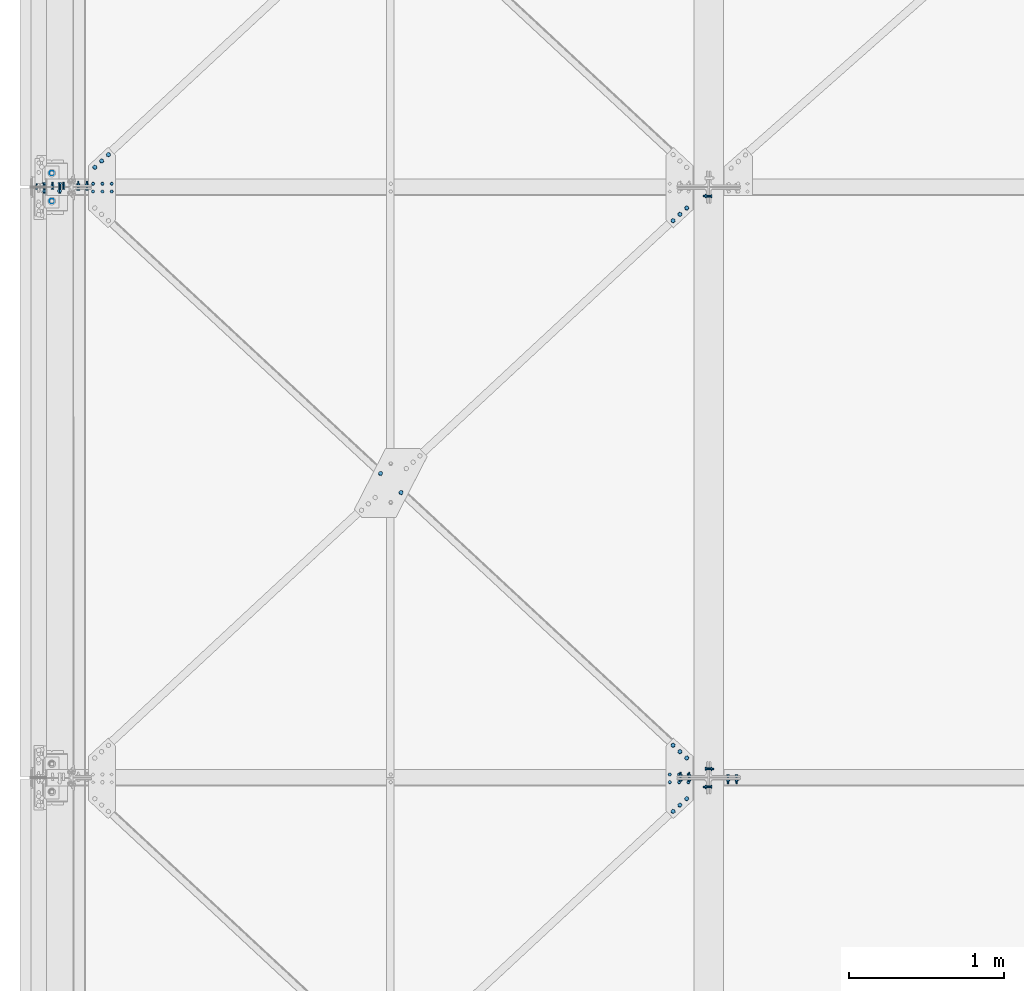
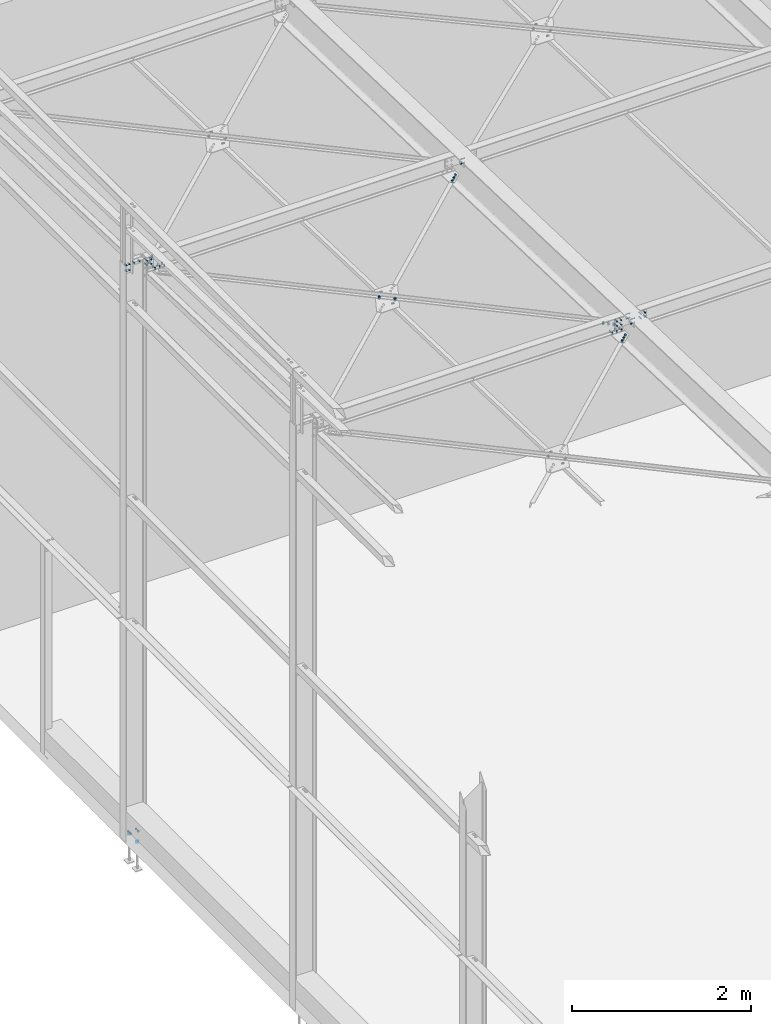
# One storey, part 150 of 362: 17 mechanical fasteners.
"""IFC2X3 building model written with IfcOpenShell, lengths in millimetres."""

from ifc_helpers import new_model, si_unit, frame, origin_with_axes, origin_2d_with_axis, place, context, subcontext, project, spatial, polyline, circle, outline, extrude, source, transform, mapped, material, type_object, element, save


model = new_model("IFC2X3")

# Units and contexts
model_context = context("Model", 3, precision=1e-05, world=origin_with_axes())
body_context = subcontext(model_context, "Body", "Model", "MODEL_VIEW")
ifc_project = project(units=[si_unit("LENGTHUNIT", "METRE", prefix="MILLI"), si_unit("AREAUNIT", "SQUARE_METRE"), si_unit("VOLUMEUNIT", "CUBIC_METRE"), si_unit("MASSUNIT", "GRAM", prefix="KILO"), si_unit("TIMEUNIT", "SECOND"), si_unit("PLANEANGLEUNIT", "RADIAN"), si_unit("SOLIDANGLEUNIT", "STERADIAN"), si_unit("THERMODYNAMICTEMPERATUREUNIT", "DEGREE_CELSIUS"), si_unit("LUMINOUSINTENSITYUNIT", "LUMEN")], contexts=[model_context])

# Site, building, storey
site_placement = place(None, origin_with_axes())
site = spatial("IfcSite", under=ifc_project, at=site_placement, Name="Undefined", CompositionType="ELEMENT")
building_placement = place(site_placement, origin_with_axes())
building = spatial("IfcBuilding", under=site, at=building_placement, Name="Undefined", CompositionType="ELEMENT")
storey_placement = place(building_placement, origin_with_axes())
storey = spatial("IfcBuildingStorey", under=building, at=storey_placement, Name="Undefined", CompositionType="ELEMENT", Elevation=0.0)

# Mechanical fasteners
ifc_material_1 = material(Name="8.8-SB-ZINGUE")
mechanical_fastener_type = type_object("IfcMechanicalFastenerType", Name="Bolt assembly")
shared_shape_1 = source(origin_with_axes(), body_context, "Body", "SweptSolid", [
    extrude(circle(Radius=7.0, at=origin_2d_with_axis()), frame((0.0, -8.39654616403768, 0.0), z_axis=(0.0, 1.0, 0.0), x_axis=(1.0, 0.0, 0.0)), (0.0, 0.0, 1.0), 8.5),
    extrude(circle(Radius=7.0, at=origin_2d_with_axis()), frame((0.0, -0.100011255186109, 0.0), z_axis=(0.0, 1.0, 0.0), x_axis=(1.0, 0.0, 0.0)), (0.0, 0.0, 1.0), 6.1),
    extrude(outline(polyline([(10.39230484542, 0.0), (5.19615242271, 9.00000000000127), (-5.19615242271, 9.00000000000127), (-10.39230484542, 0.0), (-5.19615242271, -9.00000000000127), (5.19615242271, -9.00000000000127), (10.39230484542, 0.0)])), frame((0.0, -16.4165461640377, 0.0), z_axis=(0.0, 1.0, 0.0), x_axis=(1.0, 0.0, 0.0)), (0.0, 0.0, 1.0), 7.92),
    extrude(circle(Radius=6.0, at=origin_2d_with_axis()), frame((0.0, -8.49654616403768, 0.0), z_axis=(0.0, 1.0, 0.0), x_axis=(1.0, 0.0, 0.0)), (0.0, 0.0, 1.0), 30.0),
    extrude(outline(polyline([(11.5008173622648, 0.0), (5.7504086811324, 9.96000000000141), (-5.7504086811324, 9.96000000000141), (-11.5008173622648, 0.0), (-5.7504086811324, -9.96000000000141), (5.7504086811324, -9.96000000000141), (11.5008173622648, 0.0)])), frame((0.0, 6.0, 0.0), z_axis=(0.0, 1.0, 0.0), x_axis=(1.0, 0.0, 0.0)), (0.0, 0.0, 1.0), 7.92),
])
mechanical_fastener_1_placement = place(storey_placement, frame((220.000000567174, 11396.8586773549, 7491.74221477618), z_axis=(-1.26212453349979e-05, 0.999506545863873, -0.0314112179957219), x_axis=(0.999999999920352, 1.26150000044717e-05, -3.96999997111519e-07)))
element("IfcMechanicalFastener", 1, at=mechanical_fastener_1_placement, inside=storey, type_object=mechanical_fastener_type, material=ifc_material_1, Name="Bolt assembly", NominalDiameter=12.0, NominalLength=30.0, context=body_context, shape_type="MappedRepresentation", body=[
    mapped(shared_shape_1, transform((0.0, 0.0, 25.0))),
    mapped(shared_shape_1, transform((60.00000000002, -1.00044417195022e-11, 24.9999999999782))),
    mapped(shared_shape_1, transform((120.00000000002, -1.90993887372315e-11, 24.9999999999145))),
    mapped(shared_shape_1, transform((0.0, 0.0, -25.0))),
    mapped(shared_shape_1, transform((59.9999999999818, -8.18545231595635e-12, -25.0000000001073))),
    mapped(shared_shape_1, transform((119.999999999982, -1.72803993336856e-11, -25.0000000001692))),
])
mechanical_fastener_2_placement = place(storey_placement, frame((4049.99999861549, 7596.86006539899, 7611.16372858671), z_axis=(-1.37967020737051e-06, -0.99950654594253, 0.0314112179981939), x_axis=(-0.999999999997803, 2.09199999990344e-06, -1.31999999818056e-07)))
element("IfcMechanicalFastener", 2, at=mechanical_fastener_2_placement, inside=storey, type_object=mechanical_fastener_type, material=ifc_material_1, Name="Bolt assembly", NominalDiameter=12.0, NominalLength=30.0, context=body_context, shape_type="MappedRepresentation", body=[
    mapped(shared_shape_1, transform((0.0, 0.0, -25.0))),
    mapped(shared_shape_1, transform((59.9999999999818, -8.18545231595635e-12, -25.0000000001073))),
    mapped(shared_shape_1, transform((119.999999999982, -1.72803993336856e-11, -25.0000000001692))),
    mapped(shared_shape_1, transform((0.0, 0.0, 25.0))),
    mapped(shared_shape_1, transform((60.00000000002, -1.00044417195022e-11, 24.9999999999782))),
    mapped(shared_shape_1, transform((120.00000000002, -1.90993887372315e-11, 24.9999999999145))),
])
shared_shape_2 = source(origin_with_axes(), body_context, "Body", "SweptSolid", [
    extrude(circle(Radius=9.0, at=origin_2d_with_axis()), frame((0.0, 2.90185310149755, 0.0), z_axis=(0.0, 1.0, 0.0), x_axis=(1.0, 0.0, 0.0)), (0.0, 0.0, 1.0), 5.1),
    extrude(circle(Radius=9.0, at=origin_2d_with_axis()), frame((0.0, -2.90345384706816, 0.0), z_axis=(0.0, 1.0, 0.0), x_axis=(1.0, 0.0, 0.0)), (0.0, 0.0, 1.0), 6.0),
    extrude(outline(polyline([(13.85640646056, 0.0), (6.92820323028, 12.0000000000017), (-6.92820323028, 12.0000000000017), (-13.85640646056, 0.0), (-6.92820323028, -12.0000000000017), (6.92820323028, -12.0000000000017), (13.85640646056, 0.0)])), frame((0.0, -13.5634538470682, 0.0), z_axis=(0.0, 1.0, 0.0), x_axis=(1.0, 0.0, 0.0)), (0.0, 0.0, 1.0), 10.56),
    extrude(circle(Radius=8.0, at=origin_2d_with_axis()), frame((0.0, -3.00345384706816, 0.0), z_axis=(0.0, 1.0, 0.0), x_axis=(1.0, 0.0, 0.0)), (0.0, 0.0, 1.0), 30.0),
    extrude(outline(polyline([(15.3344231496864, 0.0), (7.6672115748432, 13.2800000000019), (-7.6672115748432, 13.2800000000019), (-15.3344231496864, 0.0), (-7.6672115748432, -13.2800000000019), (7.6672115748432, -13.2800000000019), (15.3344231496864, 0.0)])), frame((0.0, 8.00185310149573, 0.0), z_axis=(0.0, 1.0, 0.0), x_axis=(1.0, 0.0, 0.0)), (0.0, 0.0, 1.0), 10.56),
])
mechanical_fastener_3_placement = place(storey_placement, frame((4039.03816707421, 11265.796722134, 7492.85612623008), z_axis=(0.68083834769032, -0.732072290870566, 0.0230066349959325), x_axis=(-0.732433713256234, -0.680502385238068, 0.0213859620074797)))
element("IfcMechanicalFastener", 3, at=mechanical_fastener_3_placement, inside=storey, type_object=mechanical_fastener_type, material=ifc_material_1, Name="Bolt assembly", NominalDiameter=16.0, NominalLength=30.0, context=body_context, shape_type="MappedRepresentation", body=[
    mapped(shared_shape_2, transform((0.0, 0.0, 0.0))),
    mapped(shared_shape_2, transform((60.0, 0.0, 0.0))),
    mapped(shared_shape_2, transform((120.0, 0.0, 0.0))),
])
shared_shape_3 = source(origin_with_axes(), body_context, "Body", "SweptSolid", [
    extrude(circle(Radius=9.0, at=origin_2d_with_axis()), frame((0.0, 2.90000527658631, 0.0), z_axis=(0.0, 1.0, 0.0), x_axis=(1.0, 0.0, 0.0)), (0.0, 0.0, 1.0), 5.1),
    extrude(circle(Radius=9.0, at=origin_2d_with_axis()), frame((0.0, -2.90345384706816, 0.0), z_axis=(0.0, 1.0, 0.0), x_axis=(1.0, 0.0, 0.0)), (0.0, 0.0, 1.0), 6.0),
    extrude(outline(polyline([(13.85640646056, 0.0), (6.92820323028, 12.0000000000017), (-6.92820323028, 12.0000000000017), (-13.85640646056, 0.0), (-6.92820323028, -12.0000000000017), (6.92820323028, -12.0000000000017), (13.85640646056, 0.0)])), frame((0.0, -13.5634538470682, 0.0), z_axis=(0.0, 1.0, 0.0), x_axis=(1.0, 0.0, 0.0)), (0.0, 0.0, 1.0), 10.56),
    extrude(circle(Radius=8.0, at=origin_2d_with_axis()), frame((0.0, -3.00345384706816, 0.0), z_axis=(0.0, 1.0, 0.0), x_axis=(1.0, 0.0, 0.0)), (0.0, 0.0, 1.0), 30.0),
    extrude(outline(polyline([(15.3344231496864, 0.0), (7.6672115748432, 13.2800000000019), (-7.6672115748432, 13.2800000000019), (-15.3344231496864, 0.0), (-7.6672115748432, -13.2800000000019), (7.6672115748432, -13.2800000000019), (15.3344231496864, 0.0)])), frame((0.0, 8.00000527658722, 0.0), z_axis=(0.0, 1.0, 0.0), x_axis=(1.0, 0.0, 0.0)), (0.0, 0.0, 1.0), 10.56),
])
mechanical_fastener_4_placement = place(storey_placement, frame((4039.03573444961, 7465.79882388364, 7612.27761772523), z_axis=(0.68083834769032, -0.732072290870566, 0.0230066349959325), x_axis=(-0.732433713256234, -0.680502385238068, 0.0213859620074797)))
element("IfcMechanicalFastener", 4, at=mechanical_fastener_4_placement, inside=storey, type_object=mechanical_fastener_type, material=ifc_material_1, Name="Bolt assembly", NominalDiameter=16.0, NominalLength=30.0, context=body_context, shape_type="MappedRepresentation", body=[
    mapped(shared_shape_3, transform((0.0, 0.0, 0.0))),
    mapped(shared_shape_3, transform((60.0, 0.0, 0.0))),
    mapped(shared_shape_3, transform((120.0, 0.0, 0.0))),
])
shared_shape_4 = source(origin_with_axes(), body_context, "Body", "SweptSolid", [
    extrude(circle(Radius=9.0, at=origin_2d_with_axis()), frame((0.0, -4.89761641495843, 0.0), z_axis=(0.0, 1.0, 0.0), x_axis=(1.0, 0.0, 0.0)), (0.0, 0.0, 1.0), 5.0),
    extrude(circle(Radius=9.0, at=origin_2d_with_axis()), frame((0.0, -0.100011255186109, 0.0), z_axis=(0.0, 1.0, 0.0), x_axis=(1.0, 0.0, 0.0)), (0.0, 0.0, 1.0), 6.1),
    extrude(outline(polyline([(13.85640646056, 0.0), (6.92820323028, 12.0000000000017), (-6.92820323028, 12.0000000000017), (-13.85640646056, 0.0), (-6.92820323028, -12.0000000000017), (6.92820323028, -12.0000000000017), (13.85640646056, 0.0)])), frame((0.0, -15.5576164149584, 0.0), z_axis=(0.0, 1.0, 0.0), x_axis=(1.0, 0.0, 0.0)), (0.0, 0.0, 1.0), 10.56),
    extrude(circle(Radius=8.0, at=origin_2d_with_axis()), frame((0.0, -4.99761641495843, 0.0), z_axis=(0.0, 1.0, 0.0), x_axis=(1.0, 0.0, 0.0)), (0.0, 0.0, 1.0), 30.0),
    extrude(outline(polyline([(15.3344231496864, 0.0), (7.6672115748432, 13.2800000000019), (-7.6672115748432, 13.2800000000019), (-15.3344231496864, 0.0), (-7.6672115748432, -13.2800000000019), (7.6672115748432, -13.2800000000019), (15.3344231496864, 0.0)])), frame((0.0, 6.0, 0.0), z_axis=(0.0, 1.0, 0.0), x_axis=(1.0, 0.0, 0.0)), (0.0, 0.0, 1.0), 10.56),
])
mechanical_fastener_5_placement = place(storey_placement, frame((2135.00000157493, 9496.85917507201, 7551.45297784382), z_axis=(-0.732427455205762, 0.680509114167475, -0.0213861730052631), x_axis=(0.680845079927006, 0.732066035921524, -0.0230064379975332)))
element("IfcMechanicalFastener", 5, at=mechanical_fastener_5_placement, inside=storey, type_object=mechanical_fastener_type, material=ifc_material_1, Name="Bolt assembly", NominalDiameter=16.0, NominalLength=30.0, context=body_context, shape_type="MappedRepresentation", body=[
    mapped(shared_shape_4, transform((-8.00355337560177e-11, 1.57342583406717e-10, -90.000000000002))),
    mapped(shared_shape_4, transform((8.36735125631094e-11, -1.5825207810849e-10, 90.0))),
])
shared_shape_5 = source(origin_with_axes(), body_context, "Body", "SweptSolid", [
    extrude(circle(Radius=9.0, at=origin_2d_with_axis()), frame((0.0, 2.89983954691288, 0.0), z_axis=(0.0, 1.0, 0.0), x_axis=(1.0, 0.0, 0.0)), (0.0, 0.0, 1.0), 5.1),
    extrude(circle(Radius=9.0, at=origin_2d_with_axis()), frame((0.0, -2.90345384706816, 0.0), z_axis=(0.0, 1.0, 0.0), x_axis=(1.0, 0.0, 0.0)), (0.0, 0.0, 1.0), 6.0),
    extrude(outline(polyline([(13.85640646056, 0.0), (6.92820323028, 12.0000000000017), (-6.92820323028, 12.0000000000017), (-13.85640646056, 0.0), (-6.92820323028, -12.0000000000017), (6.92820323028, -12.0000000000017), (13.85640646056, 0.0)])), frame((0.0, -13.5634538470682, 0.0), z_axis=(0.0, 1.0, 0.0), x_axis=(1.0, 0.0, 0.0)), (0.0, 0.0, 1.0), 10.56),
    extrude(circle(Radius=8.0, at=origin_2d_with_axis()), frame((0.0, -3.00345384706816, 0.0), z_axis=(0.0, 1.0, 0.0), x_axis=(1.0, 0.0, 0.0)), (0.0, 0.0, 1.0), 30.0),
    extrude(outline(polyline([(15.3344231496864, 0.0), (7.6672115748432, 13.2800000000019), (-7.6672115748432, 13.2800000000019), (-15.3344231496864, 0.0), (-7.6672115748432, -13.2800000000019), (7.6672115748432, -13.2800000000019), (15.3344231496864, 0.0)])), frame((0.0, 7.99983954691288, 0.0), z_axis=(0.0, 1.0, 0.0), x_axis=(1.0, 0.0, 0.0)), (0.0, 0.0, 1.0), 10.56),
])
mechanical_fastener_6_placement = place(storey_placement, frame((230.964439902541, 11527.7379528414, 7484.62417113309), z_axis=(-0.680837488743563, 0.73207308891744, -0.0230066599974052), x_axis=(0.732434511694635, 0.680501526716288, -0.0213859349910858)))
element("IfcMechanicalFastener", 6, at=mechanical_fastener_6_placement, inside=storey, type_object=mechanical_fastener_type, material=ifc_material_1, Name="Bolt assembly", NominalDiameter=16.0, NominalLength=30.0, context=body_context, shape_type="MappedRepresentation", body=[
    mapped(shared_shape_5, transform((0.0, 0.0, 0.0))),
    mapped(shared_shape_5, transform((60.0, 0.0, 0.0))),
    mapped(shared_shape_5, transform((120.0, 0.0, 0.0))),
])
shared_shape_6 = source(origin_with_axes(), body_context, "Body", "SweptSolid", [
    extrude(circle(Radius=9.0, at=origin_2d_with_axis()), frame((0.0, -7.90204274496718, 0.0), z_axis=(0.0, 1.0, 0.0), x_axis=(1.0, 0.0, 0.0)), (0.0, 0.0, 1.0), 5.0),
    extrude(circle(Radius=9.0, at=origin_2d_with_axis()), frame((0.0, -3.10345380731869, 0.0), z_axis=(0.0, 1.0, 0.0), x_axis=(1.0, 0.0, 0.0)), (0.0, 0.0, 1.0), 6.1),
    extrude(outline(polyline([(13.85640646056, 0.0), (6.92820323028, 12.0000000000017), (-6.92820323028, 12.0000000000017), (-13.85640646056, 0.0), (-6.92820323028, -12.0000000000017), (6.92820323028, -12.0000000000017), (13.85640646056, 0.0)])), frame((0.0, -18.5620427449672, 0.0), z_axis=(0.0, 1.0, 0.0), x_axis=(1.0, 0.0, 0.0)), (0.0, 0.0, 1.0), 10.56),
    extrude(circle(Radius=8.0, at=origin_2d_with_axis()), frame((0.0, -8.00204274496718, 0.0), z_axis=(0.0, 1.0, 0.0), x_axis=(1.0, 0.0, 0.0)), (0.0, 0.0, 1.0), 30.0),
    extrude(outline(polyline([(15.3344231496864, 0.0), (7.6672115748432, 13.2800000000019), (-7.6672115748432, 13.2800000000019), (-15.3344231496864, 0.0), (-7.6672115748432, -13.2800000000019), (7.6672115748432, -13.2800000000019), (15.3344231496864, 0.0)])), frame((0.0, 2.99654619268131, 0.0), z_axis=(0.0, 1.0, 0.0), x_axis=(1.0, 0.0, 0.0)), (0.0, 0.0, 1.0), 10.56),
])
mechanical_fastener_7_placement = place(storey_placement, frame((4039.03556009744, 7727.73743885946, 7604.04574473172), z_axis=(-0.680837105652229, -0.732073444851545, 0.0230066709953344), x_axis=(-0.732434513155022, 0.680501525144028, -0.0213859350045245)))
element("IfcMechanicalFastener", 7, at=mechanical_fastener_7_placement, inside=storey, type_object=mechanical_fastener_type, material=ifc_material_1, Name="Bolt assembly", NominalDiameter=16.0, NominalLength=30.0, context=body_context, shape_type="MappedRepresentation", body=[
    mapped(shared_shape_6, transform((0.0, 0.0, 0.0))),
    mapped(shared_shape_6, transform((60.0, 0.0, 0.0))),
    mapped(shared_shape_6, transform((120.0, 0.0, 0.0))),
])
shared_shape_7 = source(origin_with_axes(), body_context, "Body", "SweptSolid", [
    extrude(circle(Radius=7.0, at=origin_2d_with_axis()), frame((0.0, -4.69999899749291, 0.0), z_axis=(0.0, 1.0, 0.0), x_axis=(1.0, 0.0, 0.0)), (0.0, 0.0, 1.0), 9.4),
    extrude(circle(Radius=7.0, at=origin_2d_with_axis()), frame((0.0, 4.9000000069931, 0.0), z_axis=(0.0, 1.0, 0.0), x_axis=(1.0, 0.0, 0.0)), (0.0, 0.0, 1.0), 10.1),
    extrude(circle(Radius=7.0, at=origin_2d_with_axis()), frame((0.0, -14.899999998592, 0.0), z_axis=(0.0, 1.0, 0.0), x_axis=(1.0, 0.0, 0.0)), (0.0, 0.0, 1.0), 10.0),
    extrude(outline(polyline([(10.39230484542, 0.0), (5.19615242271, 9.00000000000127), (-5.19615242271, 9.00000000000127), (-10.39230484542, 0.0), (-5.19615242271, -9.00000000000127), (5.19615242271, -9.00000000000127), (10.39230484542, 0.0)])), frame((0.0, -22.919999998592, 0.0), z_axis=(0.0, 1.0, 0.0), x_axis=(1.0, 0.0, 0.0)), (0.0, 0.0, 1.0), 7.92),
    extrude(circle(Radius=6.0, at=origin_2d_with_axis()), frame((0.0, -14.999999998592, 0.0), z_axis=(0.0, 1.0, 0.0), x_axis=(1.0, 0.0, 0.0)), (0.0, 0.0, 1.0), 50.0),
    extrude(outline(polyline([(11.5008173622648, 0.0), (5.7504086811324, 9.96000000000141), (-5.7504086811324, 9.96000000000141), (-11.5008173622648, 0.0), (-5.7504086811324, -9.96000000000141), (5.7504086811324, -9.96000000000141), (11.5008173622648, 0.0)])), frame((0.0, 15.0000000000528, 0.0), z_axis=(0.0, 1.0, 0.0), x_axis=(1.0, 0.0, 0.0)), (0.0, 0.0, 1.0), 7.92),
])
mechanical_fastener_8_placement = place(storey_placement, frame((4180.0, 7657.9722276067, 7709.28733750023), z_axis=(7.58071938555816e-11, 0.0314107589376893, 0.999506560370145), x_axis=(0.0, -0.999506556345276, 0.031410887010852)))
element("IfcMechanicalFastener", 8, at=mechanical_fastener_8_placement, inside=storey, type_object=mechanical_fastener_type, material=ifc_material_1, Name="Bolt assembly", NominalDiameter=12.0, NominalLength=50.0, context=body_context, shape_type="MappedRepresentation", body=[
    mapped(shared_shape_7, transform((0.0, 0.0, -30.0))),
    mapped(shared_shape_7, transform((0.0, 0.0, 30.0))),
])
shared_shape_8 = source(origin_with_axes(), body_context, "Body", "SweptSolid", [
    extrude(circle(Radius=7.0, at=origin_2d_with_axis()), frame((0.0, -5.60090332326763, 0.0), z_axis=(0.0, 1.0, 0.0), x_axis=(1.0, 0.0, 0.0)), (0.0, 0.0, 1.0), 5.6),
    extrude(circle(Radius=7.0, at=origin_2d_with_axis()), frame((0.0, -15.7008623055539, 0.0), z_axis=(0.0, 1.0, 0.0), x_axis=(1.0, 0.0, 0.0)), (0.0, 0.0, 1.0), 10.0),
    extrude(circle(Radius=7.0, at=origin_2d_with_axis()), frame((0.0, 0.1, 0.0), z_axis=(0.0, 1.0, 0.0), x_axis=(1.0, 0.0, 0.0)), (0.0, 0.0, 1.0), 10.1),
    extrude(outline(polyline([(10.39230484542, 0.0), (5.19615242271, 9.00000000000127), (-5.19615242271, 9.00000000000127), (-10.39230484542, 0.0), (-5.19615242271, -9.00000000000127), (5.19615242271, -9.00000000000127), (10.39230484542, 0.0)])), frame((0.0, -23.7208623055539, 0.0), z_axis=(0.0, 1.0, 0.0), x_axis=(1.0, 0.0, 0.0)), (0.0, 0.0, 1.0), 7.92),
    extrude(circle(Radius=6.0, at=origin_2d_with_axis()), frame((0.0, -15.8008623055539, 0.0), z_axis=(0.0, 1.0, 0.0), x_axis=(1.0, 0.0, 0.0)), (0.0, 0.0, 1.0), 50.0),
    extrude(outline(polyline([(11.5008173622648, 0.0), (5.7504086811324, 9.96000000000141), (-5.7504086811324, 9.96000000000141), (-11.5008173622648, 0.0), (-5.7504086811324, -9.96000000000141), (5.7504086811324, -9.96000000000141), (11.5008173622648, 0.0)])), frame((0.0, 10.1999997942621, 0.0), z_axis=(0.0, 1.0, 0.0), x_axis=(1.0, 0.0, 0.0)), (0.0, 0.0, 1.0), 7.92),
])
mechanical_fastener_9_placement = place(storey_placement, frame((4000.00000000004, 7602.79946645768, 7711.02124208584), z_axis=(7.58071938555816e-11, 0.0314107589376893, 0.999506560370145), x_axis=(1.0, 0.0, 0.0)))
element("IfcMechanicalFastener", 9, at=mechanical_fastener_9_placement, inside=storey, type_object=mechanical_fastener_type, material=ifc_material_1, Name="Bolt assembly", NominalDiameter=12.0, NominalLength=50.0, context=body_context, shape_type="MappedRepresentation", body=[
    mapped(shared_shape_8, transform((0.0, 0.0, -30.0))),
    mapped(shared_shape_8, transform((55.0000000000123, 3.45607986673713e-11, -30.0000000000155))),
    mapped(shared_shape_8, transform((0.0, 0.0, 30.0))),
    mapped(shared_shape_8, transform((54.9999999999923, 3.45607986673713e-11, 29.9999999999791))),
])
shared_shape_9 = source(origin_with_axes(), body_context, "Body", "SweptSolid", [
    extrude(circle(Radius=7.0, at=origin_2d_with_axis()), frame((0.0, -4.69999899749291, 0.0), z_axis=(0.0, 1.0, 0.0), x_axis=(1.0, 0.0, 0.0)), (0.0, 0.0, 1.0), 9.4),
    extrude(circle(Radius=7.0, at=origin_2d_with_axis()), frame((0.0, -14.899999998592, 0.0), z_axis=(0.0, 1.0, 0.0), x_axis=(1.0, 0.0, 0.0)), (0.0, 0.0, 1.0), 10.0),
    extrude(circle(Radius=7.0, at=origin_2d_with_axis()), frame((0.0, 4.9000000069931, 0.0), z_axis=(0.0, 1.0, 0.0), x_axis=(1.0, 0.0, 0.0)), (0.0, 0.0, 1.0), 10.1),
    extrude(outline(polyline([(10.39230484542, 0.0), (5.19615242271, 9.00000000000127), (-5.19615242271, 9.00000000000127), (-10.39230484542, 0.0), (-5.19615242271, -9.00000000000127), (5.19615242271, -9.00000000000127), (10.39230484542, 0.0)])), frame((0.0, -22.919999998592, 0.0), z_axis=(0.0, 1.0, 0.0), x_axis=(1.0, 0.0, 0.0)), (0.0, 0.0, 1.0), 7.92),
    extrude(circle(Radius=6.0, at=origin_2d_with_axis()), frame((0.0, -14.999999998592, 0.0), z_axis=(0.0, 1.0, 0.0), x_axis=(1.0, 0.0, 0.0)), (0.0, 0.0, 1.0), 50.0),
    extrude(outline(polyline([(11.5008173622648, 0.0), (5.7504086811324, 9.96000000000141), (-5.7504086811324, 9.96000000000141), (-11.5008173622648, 0.0), (-5.7504086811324, -9.96000000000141), (5.7504086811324, -9.96000000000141), (11.5008173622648, 0.0)])), frame((0.0, 15.0000000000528, 0.0), z_axis=(0.0, 1.0, 0.0), x_axis=(1.0, 0.0, 0.0)), (0.0, 0.0, 1.0), 7.92),
])
for number, where, z_axis, x_axis, name in (
    (10, (4180.0, 11342.0291203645, 7593.50949217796), (7.58071938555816e-11, 0.0314107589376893, 0.999506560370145), (3.14103090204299e-11, 0.999506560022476, -0.0314107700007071), "Bolt assembly"),
    (11, (4180.0, 7542.02860642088, 7712.93106587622), (7.58071938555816e-11, 0.0314107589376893, 0.999506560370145), (3.14103090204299e-11, 0.999506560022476, -0.0314107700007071), "Bolt assembly"),
):
    element("IfcMechanicalFastener", number, at=place(storey_placement, frame(where, z_axis=z_axis, x_axis=x_axis)), inside=storey, type_object=mechanical_fastener_type, material=ifc_material_1, Name=name, NominalDiameter=12.0, NominalLength=50.0, context=body_context, shape_type="MappedRepresentation", body=[
        mapped(shared_shape_9, transform((0.0, 0.0, -30.0))),
        mapped(shared_shape_9, transform((0.0, 0.0, 30.0))),
    ])
shared_shape_10 = source(origin_with_axes(), body_context, "Body", "SweptSolid", [
    extrude(circle(Radius=7.0, at=origin_2d_with_axis()), frame((0.0, -5.59995888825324, 0.0), z_axis=(0.0, 1.0, 0.0), x_axis=(1.0, 0.0, 0.0)), (0.0, 0.0, 1.0), 5.6),
    extrude(circle(Radius=7.0, at=origin_2d_with_axis()), frame((0.0, 0.1, 0.0), z_axis=(0.0, 1.0, 0.0), x_axis=(1.0, 0.0, 0.0)), (0.0, 0.0, 1.0), 10.1),
    extrude(circle(Radius=7.0, at=origin_2d_with_axis()), frame((0.0, -15.7008623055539, 0.0), z_axis=(0.0, 1.0, 0.0), x_axis=(1.0, 0.0, 0.0)), (0.0, 0.0, 1.0), 10.0),
    extrude(outline(polyline([(10.39230484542, 0.0), (5.19615242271, 9.00000000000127), (-5.19615242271, 9.00000000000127), (-10.39230484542, 0.0), (-5.19615242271, -9.00000000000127), (5.19615242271, -9.00000000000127), (10.39230484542, 0.0)])), frame((0.0, -23.7208623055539, 0.0), z_axis=(0.0, 1.0, 0.0), x_axis=(1.0, 0.0, 0.0)), (0.0, 0.0, 1.0), 7.92),
    extrude(circle(Radius=6.0, at=origin_2d_with_axis()), frame((0.0, -15.8008623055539, 0.0), z_axis=(0.0, 1.0, 0.0), x_axis=(1.0, 0.0, 0.0)), (0.0, 0.0, 1.0), 50.0),
    extrude(outline(polyline([(11.5008173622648, 0.0), (5.7504086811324, 9.96000000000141), (-5.7504086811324, 9.96000000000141), (-11.5008173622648, 0.0), (-5.7504086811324, -9.96000000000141), (5.7504086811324, -9.96000000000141), (11.5008173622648, 0.0)])), frame((0.0, 10.1999997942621, 0.0), z_axis=(0.0, 1.0, 0.0), x_axis=(1.0, 0.0, 0.0)), (0.0, 0.0, 1.0), 7.92),
])
mechanical_fastener_10_placement = place(storey_placement, frame((4360.0, 7597.2013679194, 7711.19717199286), z_axis=(7.58071938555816e-11, 0.0314107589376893, 0.999506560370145), x_axis=(-1.0, 0.0, 0.0)))
element("IfcMechanicalFastener", 12, at=mechanical_fastener_10_placement, inside=storey, type_object=mechanical_fastener_type, material=ifc_material_1, Name="Bolt assembly", NominalDiameter=12.0, NominalLength=50.0, context=body_context, shape_type="MappedRepresentation", body=[
    mapped(shared_shape_10, transform((0.0, 0.0, -30.0))),
    mapped(shared_shape_10, transform((55.0000000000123, 3.45607986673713e-11, -30.0000000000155))),
    mapped(shared_shape_10, transform((0.0, 0.0, 30.0))),
    mapped(shared_shape_10, transform((54.9999999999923, 3.45607986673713e-11, 29.9999999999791))),
])
shared_shape_11 = source(origin_with_axes(), body_context, "Body", "SweptSolid", [
    extrude(circle(Radius=7.0, at=origin_2d_with_axis()), frame((0.0, -3.29999884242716, 0.0), z_axis=(0.0, 1.0, 0.0), x_axis=(1.0, 0.0, 0.0)), (0.0, 0.0, 1.0), 6.6),
    extrude(circle(Radius=7.0, at=origin_2d_with_axis()), frame((0.0, 3.40000111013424, 0.0), z_axis=(0.0, 1.0, 0.0), x_axis=(1.0, 0.0, 0.0)), (0.0, 0.0, 1.0), 5.1),
    extrude(circle(Radius=7.0, at=origin_2d_with_axis()), frame((0.0, -8.40001950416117, 0.0), z_axis=(0.0, 1.0, 0.0), x_axis=(1.0, 0.0, 0.0)), (0.0, 0.0, 1.0), 5.0),
    extrude(outline(polyline([(10.39230484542, 0.0), (5.19615242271, 9.00000000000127), (-5.19615242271, 9.00000000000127), (-10.39230484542, 0.0), (-5.19615242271, -9.00000000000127), (5.19615242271, -9.00000000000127), (10.39230484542, 0.0)])), frame((0.0, -16.4200195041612, 0.0), z_axis=(0.0, 1.0, 0.0), x_axis=(1.0, 0.0, 0.0)), (0.0, 0.0, 1.0), 7.92),
    extrude(circle(Radius=6.0, at=origin_2d_with_axis()), frame((0.0, -8.5, 0.0), z_axis=(0.0, 1.0, 0.0), x_axis=(1.0, 0.0, 0.0)), (0.0, 0.0, 1.0), 40.0),
    extrude(outline(polyline([(11.5008173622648, 0.0), (5.7504086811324, 9.96000000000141), (-5.7504086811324, 9.96000000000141), (-11.5008173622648, 0.0), (-5.7504086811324, -9.96000000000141), (5.7504086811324, -9.96000000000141), (11.5008173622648, 0.0)])), frame((0.0, 8.49999994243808, 0.0), z_axis=(0.0, 1.0, 0.0), x_axis=(1.0, 0.0, 0.0)), (0.0, 0.0, 1.0), 7.92),
])
mechanical_fastener_11_placement = place(storey_placement, frame((-5.0, 11400.0, 7651.62877190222), z_axis=(-1.0, 0.0, 0.0), x_axis=(0.0, 0.0, 1.0)))
element("IfcMechanicalFastener", 13, at=mechanical_fastener_11_placement, inside=storey, type_object=mechanical_fastener_type, material=ifc_material_1, Name="Bolt assembly", NominalDiameter=12.0, NominalLength=40.0, context=body_context, shape_type="MappedRepresentation", body=[
    mapped(shared_shape_11, transform((0.0, 0.0, -35.0))),
    mapped(shared_shape_11, transform((0.0, 0.0, 35.0))),
])
shared_shape_12 = source(origin_with_axes(), body_context, "Body", "SweptSolid", [
    extrude(circle(Radius=7.0, at=origin_2d_with_axis()), frame((0.0, -2.80035671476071, 0.0), z_axis=(0.0, 1.0, 0.0), x_axis=(1.0, 0.0, 0.0)), (0.0, 0.0, 1.0), 5.6),
    extrude(circle(Radius=7.0, at=origin_2d_with_axis()), frame((0.0, -12.9003023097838, 0.0), z_axis=(0.0, 1.0, 0.0), x_axis=(1.0, 0.0, 0.0)), (0.0, 0.0, 1.0), 10.0),
    extrude(circle(Radius=7.0, at=origin_2d_with_axis()), frame((0.0, 2.90055997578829, 0.0), z_axis=(0.0, 1.0, 0.0), x_axis=(1.0, 0.0, 0.0)), (0.0, 0.0, 1.0), 10.1),
    extrude(outline(polyline([(10.39230484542, 0.0), (5.19615242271, 9.00000000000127), (-5.19615242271, 9.00000000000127), (-10.39230484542, 0.0), (-5.19615242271, -9.00000000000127), (5.19615242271, -9.00000000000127), (10.39230484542, 0.0)])), frame((0.0, -20.9203023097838, 0.0), z_axis=(0.0, 1.0, 0.0), x_axis=(1.0, 0.0, 0.0)), (0.0, 0.0, 1.0), 7.92),
    extrude(circle(Radius=6.0, at=origin_2d_with_axis()), frame((0.0, -13.0003023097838, 0.0), z_axis=(0.0, 1.0, 0.0), x_axis=(1.0, 0.0, 0.0)), (0.0, 0.0, 1.0), 50.0),
    extrude(outline(polyline([(11.5008173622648, 0.0), (5.7504086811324, 9.96000000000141), (-5.7504086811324, 9.96000000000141), (-11.5008173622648, 0.0), (-5.7504086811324, -9.96000000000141), (5.7504086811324, -9.96000000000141), (11.5008173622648, 0.0)])), frame((0.0, 13.0005599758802, 0.0), z_axis=(0.0, 1.0, 0.0), x_axis=(1.0, 0.0, 0.0)), (0.0, 0.0, 1.0), 7.92),
])
mechanical_fastener_12_placement = place(storey_placement, frame((179.999999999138, 11400.0008024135, 7591.68763817), z_axis=(-1.05403257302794e-09, -0.0314112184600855, -0.999506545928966), x_axis=(-0.999999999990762, -4.28499999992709e-06, 3.38999996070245e-07)))
element("IfcMechanicalFastener", 14, at=mechanical_fastener_12_placement, inside=storey, type_object=mechanical_fastener_type, material=ifc_material_1, Name="Bolt assembly", NominalDiameter=12.0, NominalLength=50.0, context=body_context, shape_type="MappedRepresentation", body=[
    mapped(shared_shape_12, transform((0.0, 0.0, -30.0))),
    mapped(shared_shape_12, transform((55.0000000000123, 3.45607986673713e-11, -30.0000000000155))),
    mapped(shared_shape_12, transform((0.0, 0.0, 30.0))),
    mapped(shared_shape_12, transform((54.9999999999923, 3.45607986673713e-11, 29.9999999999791))),
])
shared_shape_13 = source(origin_with_axes(), body_context, "Body", "SweptSolid", [
    extrude(circle(Radius=7.0, at=origin_2d_with_axis()), frame((0.0, -3.29999884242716, 0.0), z_axis=(0.0, 1.0, 0.0), x_axis=(1.0, 0.0, 0.0)), (0.0, 0.0, 1.0), 6.6),
    extrude(circle(Radius=7.0, at=origin_2d_with_axis()), frame((0.0, 3.19999995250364, 0.0), z_axis=(0.0, 1.0, 0.0), x_axis=(1.0, 0.0, 0.0)), (0.0, 0.0, 1.0), 4.1),
    extrude(circle(Radius=7.0, at=origin_2d_with_axis()), frame((0.0, -7.19999995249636, 0.0), z_axis=(0.0, 1.0, 0.0), x_axis=(1.0, 0.0, 0.0)), (0.0, 0.0, 1.0), 4.0),
    extrude(outline(polyline([(10.39230484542, 0.0), (5.19615242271, 9.00000000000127), (-5.19615242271, 9.00000000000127), (-10.39230484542, 0.0), (-5.19615242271, -9.00000000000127), (5.19615242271, -9.00000000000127), (10.39230484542, 0.0)])), frame((0.0, -15.2199999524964, 0.0), z_axis=(0.0, 1.0, 0.0), x_axis=(1.0, 0.0, 0.0)), (0.0, 0.0, 1.0), 7.92),
    extrude(circle(Radius=6.0, at=origin_2d_with_axis()), frame((0.0, -7.29999968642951, 0.0), z_axis=(0.0, 1.0, 0.0), x_axis=(1.0, 0.0, 0.0)), (0.0, 0.0, 1.0), 30.0),
    extrude(outline(polyline([(11.5008173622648, 0.0), (5.7504086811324, 9.96000000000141), (-5.7504086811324, 9.96000000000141), (-11.5008173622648, 0.0), (-5.7504086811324, -9.96000000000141), (5.7504086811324, -9.96000000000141), (11.5008173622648, 0.0)])), frame((0.0, 7.29999995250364, 0.0), z_axis=(0.0, 1.0, 0.0), x_axis=(1.0, 0.0, 0.0)), (0.0, 0.0, 1.0), 7.92),
])
mechanical_fastener_13_placement = place(storey_placement, frame((-120.000001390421, 11400.0, 7570.0013155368), z_axis=(-1.0, 0.0, 0.0), x_axis=(0.0, 0.0, 1.0)))
element("IfcMechanicalFastener", 15, at=mechanical_fastener_13_placement, inside=storey, type_object=mechanical_fastener_type, material=ifc_material_1, Name="Bolt assembly", NominalDiameter=12.0, NominalLength=30.0, context=body_context, shape_type="MappedRepresentation", body=[
    mapped(shared_shape_13, transform((1.70530256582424e-12, 0.0, -20.0))),
    mapped(shared_shape_13, transform((80.0, 0.0, -20.0))),
    mapped(shared_shape_13, transform((-1.70530256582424e-12, 0.0, 20.0))),
    mapped(shared_shape_13, transform((80.0, 0.0, 20.0))),
])
ifc_material_2 = material(Name="6.8")
shared_shape_14 = source(origin_with_axes(), body_context, "Body", "SweptSolid", [
    extrude(circle(Radius=13.0, at=origin_2d_with_axis()), frame((0.0, 0.0, 0.0), z_axis=(0.0, 1.0, 0.0), x_axis=(1.0, 0.0, 0.0)), (0.0, 0.0, 1.0), 10.1),
])
mechanical_fastener_14_placement = place(storey_placement, frame((-45.0, 11400.0000000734, -200.0), z_axis=(0.0, -1.0, 0.0), x_axis=(-1.0, 0.0, 0.0)))
element("IfcMechanicalFastener", 16, at=mechanical_fastener_14_placement, inside=storey, type_object=mechanical_fastener_type, material=ifc_material_2, Name="Bolt assembly", NominalDiameter=24.0, NominalLength=10.0, context=body_context, shape_type="MappedRepresentation", body=[
    mapped(shared_shape_14, transform((-8.00355337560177e-11, 1.57342583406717e-10, -90.000000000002))),
    mapped(shared_shape_14, transform((8.36735125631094e-11, -1.5825207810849e-10, 90.0))),
])
shared_shape_15 = source(origin_with_axes(), body_context, "Body", "SweptSolid", [
    extrude(circle(Radius=9.0, at=origin_2d_with_axis()), frame((0.0, -3.29999884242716, 0.0), z_axis=(0.0, 1.0, 0.0), x_axis=(1.0, 0.0, 0.0)), (0.0, 0.0, 1.0), 6.6),
    extrude(circle(Radius=9.0, at=origin_2d_with_axis()), frame((0.0, 4.9000000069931, 0.0), z_axis=(0.0, 1.0, 0.0), x_axis=(1.0, 0.0, 0.0)), (0.0, 0.0, 1.0), 15.1),
    extrude(circle(Radius=9.0, at=origin_2d_with_axis()), frame((0.0, -19.9, 0.0), z_axis=(0.0, 1.0, 0.0), x_axis=(1.0, 0.0, 0.0)), (0.0, 0.0, 1.0), 15.0),
    extrude(outline(polyline([(13.85640646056, 0.0), (6.92820323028, 12.0000000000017), (-6.92820323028, 12.0000000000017), (-13.85640646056, 0.0), (-6.92820323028, -12.0000000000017), (6.92820323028, -12.0000000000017), (13.85640646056, 0.0)])), frame((0.0, -30.56, 0.0), z_axis=(0.0, 1.0, 0.0), x_axis=(1.0, 0.0, 0.0)), (0.0, 0.0, 1.0), 10.56),
    extrude(circle(Radius=8.0, at=origin_2d_with_axis()), frame((0.0, -20.0, 0.0), z_axis=(0.0, 1.0, 0.0), x_axis=(1.0, 0.0, 0.0)), (0.0, 0.0, 1.0), 60.0),
    extrude(outline(polyline([(15.3344231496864, 0.0), (7.6672115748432, 13.2800000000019), (-7.6672115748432, 13.2800000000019), (-15.3344231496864, 0.0), (-7.6672115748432, -13.2800000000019), (7.6672115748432, -13.2800000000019), (15.3344231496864, 0.0)])), frame((0.0, 20.0, 0.0), z_axis=(0.0, 1.0, 0.0), x_axis=(1.0, 0.0, 0.0)), (0.0, 0.0, 1.0), 10.56),
])
mechanical_fastener_15_placement = place(storey_placement, frame((-45.0, 11400.0, -115.0), z_axis=(-1.0, 0.0, 0.0), x_axis=(0.0, 0.0, -1.0)))
element("IfcMechanicalFastener", 17, at=mechanical_fastener_15_placement, inside=storey, type_object=mechanical_fastener_type, material=ifc_material_1, Name="Bolt assembly", NominalDiameter=16.0, NominalLength=60.0, context=body_context, shape_type="MappedRepresentation", body=[
    mapped(shared_shape_15, transform((0.0, 0.0, -50.0))),
    mapped(shared_shape_15, transform((0.0, 0.0, 50.0))),
])

save(model, "model.ifc")
